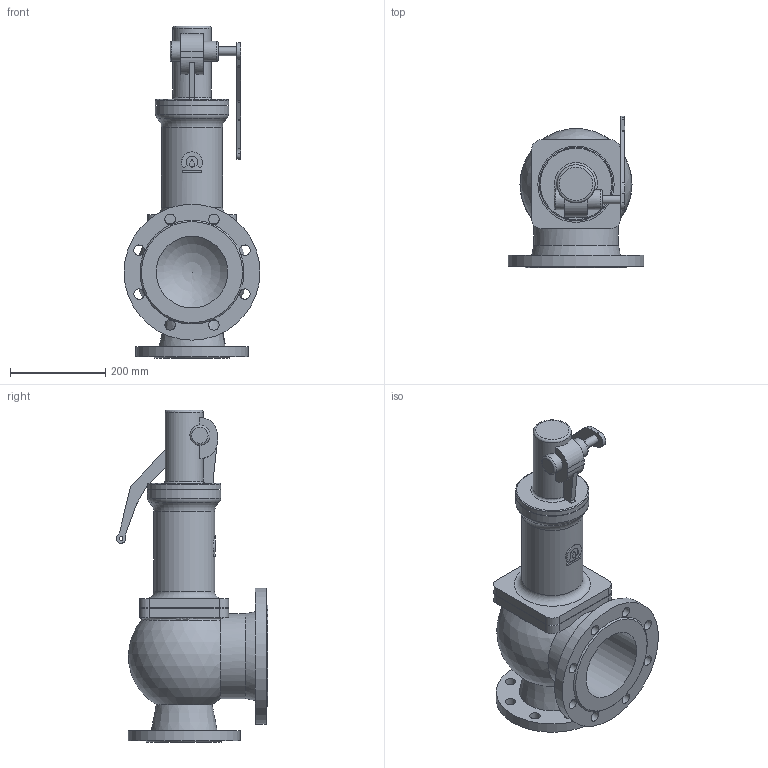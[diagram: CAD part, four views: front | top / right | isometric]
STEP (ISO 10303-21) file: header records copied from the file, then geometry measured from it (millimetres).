
FILE_DESCRIPTION(('STEP AP203'), '1');
FILE_NAME('Êëàïàí ïðåäîõðàíèòåëüíûé ïîëíîïîäüåìíûé SV2F DN100x150', '', ('UNSPECIFIED'), ('UNSPECIFIED'), 'ASCON STEP Converter 1.6', 'ASCON Math Kernel', '');
FILE_SCHEMA(('CONFIG_CONTROL_DESIGN'));
Length unit declared in the file: millimetre
Bounding box: 285 x 317.37 x 696 mm (x, y, z)
Volume: 11317365.5 mm3; surface area: 797610.4 mm2
Topology: 1 solids, 1 shells, 136 faces, 390 edges, 264 vertices
Faces by surface type: plane 60, cylinder 58, torus 9, cone 7, sphere 2
Full cylindrical faces by diameter (mm): 8 x1, 18 x1, 22 x16, 42 x2, 80 x1, 100 x1, 128 x1, 143 x1, 150 x1, 154 x2, 175.284 x1, 178 x1, 235 x1, 285 x1
Entity records: 6616 total; most frequent: CARTESIAN_POINT 1905, DIRECTION 777, ORIENTED_EDGE 682, EDGE_CURVE 341, AXIS2_PLACEMENT_3D 330, VERTEX_POINT 262, EDGE_LOOP 232, CIRCLE 193
